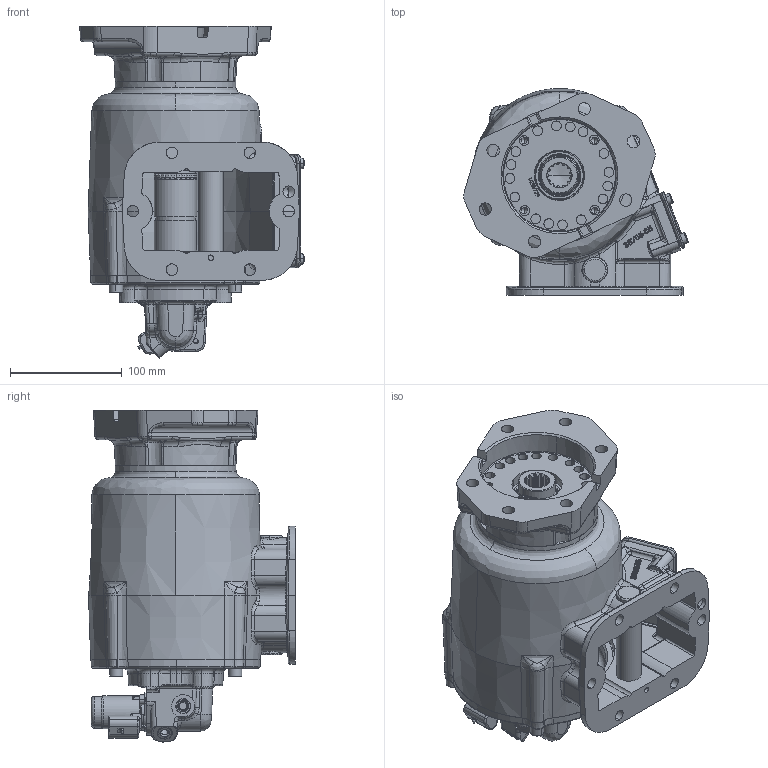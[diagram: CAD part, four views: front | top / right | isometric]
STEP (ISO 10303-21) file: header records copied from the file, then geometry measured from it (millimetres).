
FILE_DESCRIPTION (( 'STEP AP203' ), '1' );
FILE_NAME ('CS6B-A6704-S3KP.STEP', '2023-04-06T19:47:47', ( '' ), ( '' ), 'SwSTEP 2.0', 'SolidWorks 2021', '' );
FILE_SCHEMA (( 'CONFIG_CONTROL_DESIGN' ));
Length unit declared in the file: millimetre
Products named in the file (20): 15T41597; 01T36706; 36MCL100; 63585; 25T34029; 63584; 19T33233; CS6B-A6704-S3KP; 25T21684; 19t39257; 06t36893_06T36893; 35T40860; 10T21017; 19T40859; 11T37790; 07T35947; 19T35237; 19T41118; 16T41119; 14TA3996
Assembly tree (42 placements, depth 3):
  CS6B-A6704-S3KP
    01T36706
    07T35947
    19T35237  x4
    19T33233  x4
    16T41119
    19T41118  x4
    15T41597
    25T21684  x10
    35T40860
    19T40859  x2
    25T34029  x2
    11T37790
    10T21017
    36MCL100
    19t39257  x4
    06t36893_06T36893
    14TA3996
      63585
      63584
Bounding box: 201.38 x 185.25 x 297.72 mm (x, y, z)
Volume: 1016912.3 mm3; surface area: 522227.7 mm2
Topology: 40 solids, 49 shells, 3895 faces, 10709 edges, 7076 vertices
Faces by surface type: plane 1252, bspline 1091, cylinder 837, cone 442, torus 247, sphere 26
Entity records: 229389 total; most frequent: CARTESIAN_POINT 145916, ORIENTED_EDGE 19191, DIRECTION 13161, EDGE_CURVE 9599, VERTEX_POINT 6437, AXIS2_PLACEMENT_3D 4560, VECTOR 4041, LINE 4041
